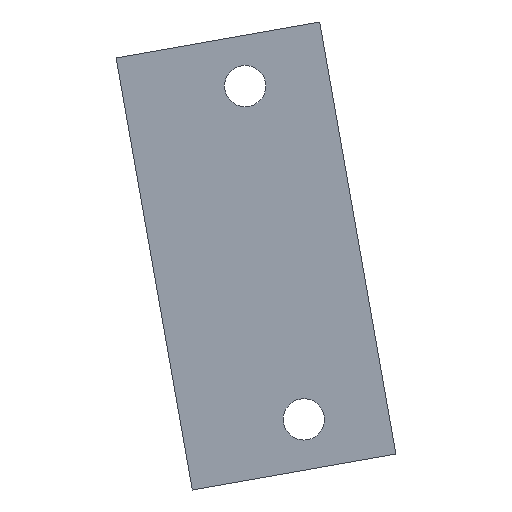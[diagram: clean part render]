
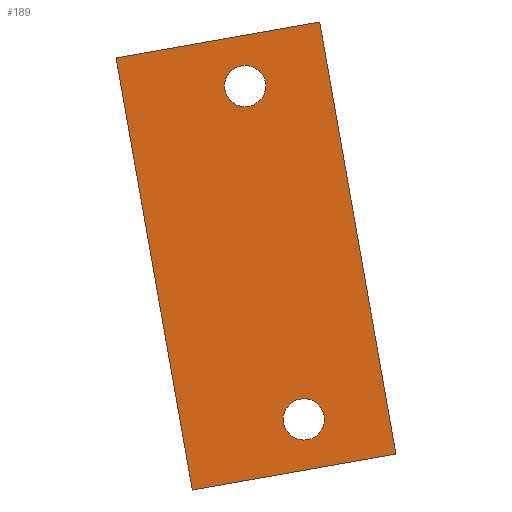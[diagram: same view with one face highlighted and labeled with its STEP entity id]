
A CAD part, left-side view. The second image highlights one B-rep face of the part: STEP entity #189.
In plain terms, the highlighted planar face has unit normal (-1, 0, 0).
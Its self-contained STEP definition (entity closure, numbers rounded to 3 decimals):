
#27=CARTESIAN_POINT('',(-173.5,-818.544,435.042));
#28=VERTEX_POINT('',#27);
#45=CARTESIAN_POINT('',(-173.5,-851.043,440.772));
#46=VERTEX_POINT('',#45);
#53=CARTESIAN_POINT('',(-173.5,-818.544,435.042));
#54=DIRECTION('',(0.0,-0.985,0.174));
#55=VECTOR('',#54,1.);
#56=LINE('',#53,#55);
#57=EDGE_CURVE('',#28,#46,#56,.T.);
#120=CARTESIAN_POINT('',(-173.5,-806.389,503.978));
#121=VERTEX_POINT('',#120);
#128=CARTESIAN_POINT('',(-173.5,-838.887,509.709));
#129=VERTEX_POINT('',#128);
#130=CARTESIAN_POINT('',(-173.5,-806.389,503.978));
#131=DIRECTION('',(0.0,-0.985,0.174));
#132=VECTOR('',#131,1.);
#133=LINE('',#130,#132);
#134=EDGE_CURVE('',#121,#129,#133,.T.);
#146=CARTESIAN_POINT('',(-173.5,-806.389,503.978));
#147=DIRECTION('',(-1.0,0.0,0.0));
#148=DIRECTION('',(0.0,-0.174,-0.985));
#149=AXIS2_PLACEMENT_3D('',#146,#147,#148);
#150=PLANE('',#149);
#151=CARTESIAN_POINT('',(-173.5,-806.389,503.978));
#152=DIRECTION('',(0.,-0.174,-0.985));
#153=VECTOR('',#152,1.);
#154=LINE('',#151,#153);
#155=EDGE_CURVE('',#121,#28,#154,.T.);
#156=ORIENTED_EDGE('',*,*,#155,.T.);
#157=ORIENTED_EDGE('',*,*,#57,.T.);
#158=CARTESIAN_POINT('',(-173.5,-838.887,509.709));
#159=DIRECTION('',(0.,-0.174,-0.985));
#160=VECTOR('',#159,1.);
#161=LINE('',#158,#160);
#162=EDGE_CURVE('',#129,#46,#161,.T.);
#163=ORIENTED_EDGE('',*,*,#162,.F.);
#164=ORIENTED_EDGE('',*,*,#134,.F.);
#165=EDGE_LOOP('',(#156,#157,#163,#164));
#166=FACE_OUTER_BOUND('',#165,.T.);
#167=CARTESIAN_POINT('',(-173.5,-826.409,502.736));
#168=VERTEX_POINT('',#167);
#169=CARTESIAN_POINT('',(-173.5,-826.982,499.486));
#170=DIRECTION('',(1.0,0.,0.));
#171=DIRECTION('',(0.,0.174,0.985));
#172=AXIS2_PLACEMENT_3D('',#169,#170,#171);
#173=CIRCLE('',#172,3.3);
#174=EDGE_CURVE('',#168,#168,#173,.T.);
#175=ORIENTED_EDGE('',*,*,#174,.T.);
#176=EDGE_LOOP('',(#175));
#177=FACE_BOUND('',#176,.T.);
#178=CARTESIAN_POINT('',(-173.5,-835.786,449.556));
#179=VERTEX_POINT('',#178);
#180=CARTESIAN_POINT('',(-173.5,-836.359,446.306));
#181=DIRECTION('',(1.0,0.,0.));
#182=DIRECTION('',(0.,0.174,0.985));
#183=AXIS2_PLACEMENT_3D('',#180,#181,#182);
#184=CIRCLE('',#183,3.3);
#185=EDGE_CURVE('',#179,#179,#184,.T.);
#186=ORIENTED_EDGE('',*,*,#185,.T.);
#187=EDGE_LOOP('',(#186));
#188=FACE_BOUND('',#187,.T.);
#189=ADVANCED_FACE('',(#166,#177,#188),#150,.T.);
